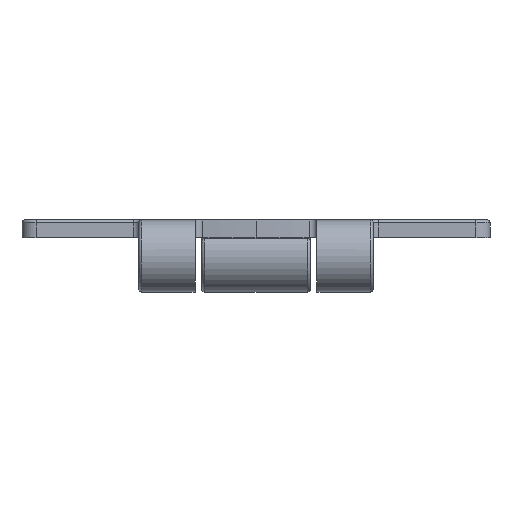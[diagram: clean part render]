
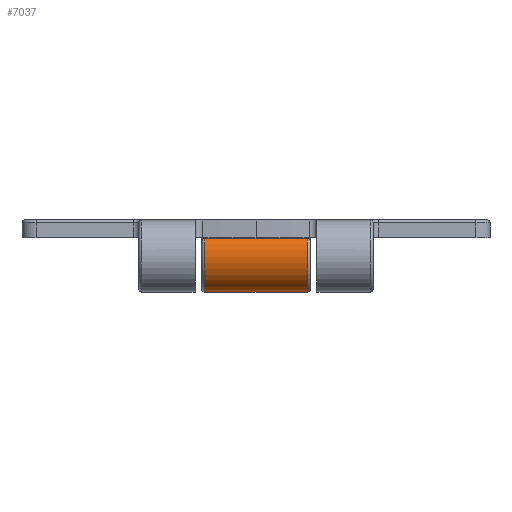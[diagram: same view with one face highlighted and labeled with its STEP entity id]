
A CAD part, front view. The second image highlights one B-rep face of the part: STEP entity #7037.
In plain terms, the highlighted cylindrical face has radius 6.35 mm (diameter 12.7 mm), a partial arc.
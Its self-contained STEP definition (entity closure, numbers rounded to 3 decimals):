
#6428=CARTESIAN_POINT('Vertex',(9.05,38.1,6.35)) ;
#6431=CARTESIAN_POINT('Line Origine',(0.,38.1,6.35)) ;
#6435=CARTESIAN_POINT('Vertex',(-9.05,38.1,6.35)) ;
#6883=CARTESIAN_POINT('Vertex',(-9.05,32.53,3.05)) ;
#6886=CARTESIAN_POINT('Axis2P3D Location',(-9.05,38.1,0.)) ;
#6903=CARTESIAN_POINT('Line Origine',(0.,32.53,3.05)) ;
#6907=CARTESIAN_POINT('Vertex',(9.05,32.53,3.05)) ;
#6958=CARTESIAN_POINT('Axis2P3D Location',(9.05,38.1,0.)) ;
#7026=CARTESIAN_POINT('Axis2P3D Location',(0.,38.1,0.)) ;
#6432=DIRECTION('Vector Direction',(1.,0.,0.)) ;
#6887=DIRECTION('Axis2P3D Direction',(-1.,0.,0.)) ;
#6904=DIRECTION('Vector Direction',(1.,0.,0.)) ;
#6959=DIRECTION('Axis2P3D Direction',(-1.,-0.,0.)) ;
#7027=DIRECTION('Axis2P3D Direction',(1.,0.,0.)) ;
#7028=DIRECTION('Axis2P3D XDirection',(0.,-0.877,0.48)) ;
#6888=AXIS2_PLACEMENT_3D('Circle Axis2P3D',#6886,#6887,$) ;
#6960=AXIS2_PLACEMENT_3D('Circle Axis2P3D',#6958,#6959,$) ;
#7029=AXIS2_PLACEMENT_3D('Cylinder Axis2P3D',#7026,#7027,#7028) ;
#7032=ORIENTED_EDGE('',*,*,#6437,.F.) ;
#7033=ORIENTED_EDGE('',*,*,#6962,.T.) ;
#7034=ORIENTED_EDGE('',*,*,#6909,.T.) ;
#7035=ORIENTED_EDGE('',*,*,#6890,.F.) ;
#6433=VECTOR('Line Direction',#6432,1.) ;
#6905=VECTOR('Line Direction',#6904,1.) ;
#7037=ADVANCED_FACE('PartBody',(#7036),#7030,.T.) ;
#6889=CIRCLE('generated circle',#6888,6.35) ;
#6961=CIRCLE('generated circle',#6960,6.35) ;
#7030=CYLINDRICAL_SURFACE('generated cylinder',#7029,6.35) ;
#6437=EDGE_CURVE('',#6429,#6436,#6434,.F.) ;
#6890=EDGE_CURVE('',#6436,#6884,#6889,.T.) ;
#6909=EDGE_CURVE('',#6908,#6884,#6906,.F.) ;
#6962=EDGE_CURVE('',#6429,#6908,#6961,.T.) ;
#7031=EDGE_LOOP('',(#7032,#7033,#7034,#7035)) ;
#7036=FACE_OUTER_BOUND('',#7031,.T.) ;
#6434=LINE('Line',#6431,#6433) ;
#6906=LINE('Line',#6903,#6905) ;
#6429=VERTEX_POINT('',#6428) ;
#6436=VERTEX_POINT('',#6435) ;
#6884=VERTEX_POINT('',#6883) ;
#6908=VERTEX_POINT('',#6907) ;
